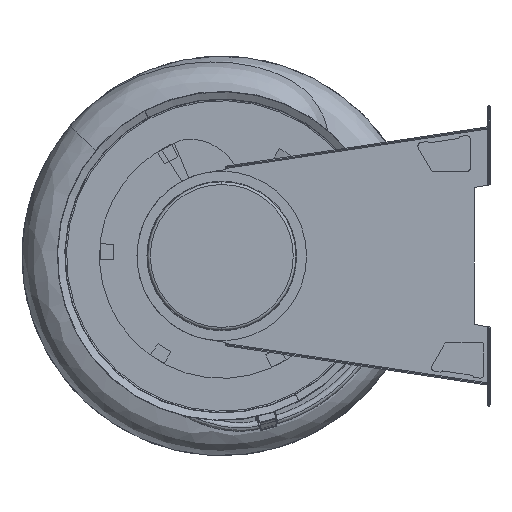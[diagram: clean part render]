
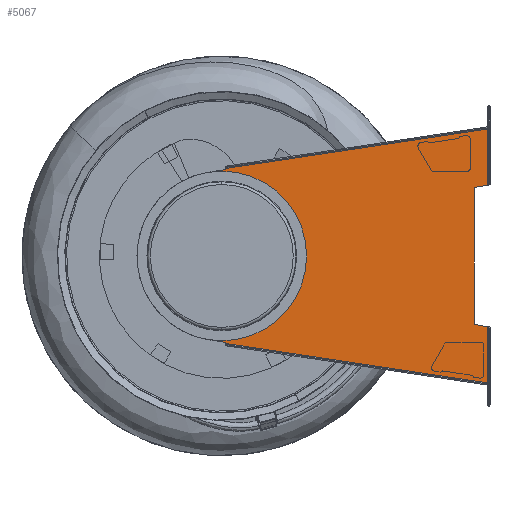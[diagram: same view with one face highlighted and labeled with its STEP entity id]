
A CAD part, left-side view. The second image highlights one B-rep face of the part: STEP entity #5067.
In plain terms, the highlighted planar face has unit normal (-1, 0, 0).
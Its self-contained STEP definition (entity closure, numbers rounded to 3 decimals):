
#3629=DIRECTION('',(0.,0.,1.));
#3630=VECTOR('',#3629,250.);
#3631=CARTESIAN_POINT('',(-924.,-461.142,-125.));
#3632=LINE('',#3631,#3630);
#3645=CARTESIAN_POINT('',(-924.,0.,0.));
#3646=DIRECTION('',(-1.,0.,0.));
#3647=DIRECTION('',(0.,1.,0.));
#3648=AXIS2_PLACEMENT_3D('',#3645,#3646,#3647);
#3650=CARTESIAN_POINT('',(-924.,0.,0.));
#3651=DIRECTION('',(-1.,0.,0.));
#3652=DIRECTION('',(0.,-1.,0.));
#3653=AXIS2_PLACEMENT_3D('',#3650,#3651,#3652);
#3655=DIRECTION('',(0.,-0.989,0.149));
#3656=VECTOR('',#3655,3.105);
#3657=CARTESIAN_POINT('',(-924.,23.07,153.273));
#3658=LINE('',#3657,#3656);
#3659=DIRECTION('',(0.,-0.989,0.149));
#3660=VECTOR('',#3659,6.895);
#3661=CARTESIAN_POINT('',(-924.,20.,153.736));
#3662=LINE('',#3661,#3660);
#3663=DIRECTION('',(0.,-0.989,0.149));
#3664=VECTOR('',#3663,20.342);
#3665=CARTESIAN_POINT('',(-924.,13.182,154.762));
#3666=LINE('',#3665,#3664);
#3667=CARTESIAN_POINT('',(-924.,-21.767,160.022));
#3668=DIRECTION('',(1.,0.,0.));
#3669=DIRECTION('',(0.,0.989,-0.149));
#3670=AXIS2_PLACEMENT_3D('',#3667,#3668,#3669);
#3672=DIRECTION('',(0.,0.989,-0.149));
#3673=VECTOR('',#3672,3.853);
#3674=CARTESIAN_POINT('',(-924.,-486.,231.92));
#3675=LINE('',#3674,#3673);
#3676=DIRECTION('',(0.,0.985,-0.174));
#3677=VECTOR('',#3676,25.242);
#3678=CARTESIAN_POINT('',(-924.,-486.,129.383));
#3679=LINE('',#3678,#3677);
#3680=DIRECTION('',(0.,0.985,0.174));
#3681=VECTOR('',#3680,25.242);
#3682=CARTESIAN_POINT('',(-924.,-486.,-129.383));
#3683=LINE('',#3682,#3681);
#3684=DIRECTION('',(0.,0.989,0.149));
#3685=VECTOR('',#3684,3.853);
#3686=CARTESIAN_POINT('',(-924.,-486.,-231.92));
#3687=LINE('',#3686,#3685);
#3688=CARTESIAN_POINT('',(-924.,-21.767,-160.022));
#3689=DIRECTION('',(1.,0.,0.));
#3690=DIRECTION('',(0.,1.,0.016));
#3691=AXIS2_PLACEMENT_3D('',#3688,#3689,#3690);
#3693=DIRECTION('',(0.,-0.989,-0.149));
#3694=VECTOR('',#3693,20.342);
#3695=CARTESIAN_POINT('',(-924.,13.182,-154.762));
#3696=LINE('',#3695,#3694);
#3697=DIRECTION('',(0.,-0.989,-0.149));
#3698=VECTOR('',#3697,6.895);
#3699=CARTESIAN_POINT('',(-924.,20.,-153.736));
#3700=LINE('',#3699,#3698);
#3701=DIRECTION('',(0.,-0.989,-0.149));
#3702=VECTOR('',#3701,3.105);
#3703=CARTESIAN_POINT('',(-924.,23.07,-153.273));
#3704=LINE('',#3703,#3702);
#3710=CARTESIAN_POINT('',(-924.,0.,0.));
#3711=DIRECTION('',(-1.,0.,0.));
#3712=DIRECTION('',(0.,0.149,0.989));
#3713=AXIS2_PLACEMENT_3D('',#3710,#3711,#3712);
#3747=CARTESIAN_POINT('',(-924.,-6.769,159.787));
#3765=DIRECTION('',(0.,-0.989,0.149));
#3766=VECTOR('',#3765,480.777);
#3767=CARTESIAN_POINT('',(-924.,-6.769,159.787));
#3768=LINE('',#3767,#3766);
#3877=DIRECTION('',(0.,0.,-1.));
#3878=VECTOR('',#3877,102.537);
#3879=CARTESIAN_POINT('',(-924.,-486.,231.92));
#3880=LINE('',#3879,#3878);
#4335=DIRECTION('',(0.,0.,1.));
#4336=VECTOR('',#4335,102.537);
#4337=CARTESIAN_POINT('',(-924.,-486.,-231.92));
#4338=LINE('',#4337,#4336);
#4378=CARTESIAN_POINT('',(-924.,-6.769,-159.787));
#4392=DIRECTION('',(0.,-0.989,-0.149));
#4393=VECTOR('',#4392,480.777);
#4394=CARTESIAN_POINT('',(-924.,-6.769,-159.787));
#4395=LINE('',#4394,#4393);
#4669=CARTESIAN_POINT('',(-924.,-33.,0.));
#4670=CARTESIAN_POINT('',(-924.,33.,0.));
#4671=VERTEX_POINT('',#4669);
#4672=VERTEX_POINT('',#4670);
#4674=CARTESIAN_POINT('',(-924.,23.07,-153.273));
#4676=VERTEX_POINT('',#4674);
#4693=CARTESIAN_POINT('',(-924.,-486.,-231.92));
#4694=CARTESIAN_POINT('',(-924.,-482.19,-231.347));
#4695=VERTEX_POINT('',#4693);
#4696=VERTEX_POINT('',#4694);
#4747=CARTESIAN_POINT('',(-924.,-486.,-129.383));
#4748=VERTEX_POINT('',#4747);
#4750=CARTESIAN_POINT('',(-924.,23.07,153.273));
#4752=VERTEX_POINT('',#4750);
#4769=CARTESIAN_POINT('',(-924.,-486.,231.92));
#4770=CARTESIAN_POINT('',(-924.,-482.19,231.347));
#4771=VERTEX_POINT('',#4769);
#4772=VERTEX_POINT('',#4770);
#4810=CARTESIAN_POINT('',(-924.,-486.,129.383));
#4811=VERTEX_POINT('',#4810);
#4816=CARTESIAN_POINT('',(-924.,-461.142,-125.));
#4817=VERTEX_POINT('',#4816);
#4822=CARTESIAN_POINT('',(-924.,-461.142,125.));
#4823=VERTEX_POINT('',#4822);
#4832=CARTESIAN_POINT('',(-924.,20.,-153.736));
#4833=CARTESIAN_POINT('',(-924.,13.182,-154.762));
#4834=VERTEX_POINT('',#4832);
#4835=VERTEX_POINT('',#4833);
#4841=VERTEX_POINT('',#4378);
#4850=CARTESIAN_POINT('',(-924.,20.,153.736));
#4851=CARTESIAN_POINT('',(-924.,13.182,154.762));
#4852=VERTEX_POINT('',#4850);
#4853=VERTEX_POINT('',#4851);
#4859=VERTEX_POINT('',#3747);
#4878=CARTESIAN_POINT('',(-924.,-6.934,-157.79));
#4879=VERTEX_POINT('',#4878);
#4882=CARTESIAN_POINT('',(-924.,-6.934,157.79));
#4883=VERTEX_POINT('',#4882);
#5019=CARTESIAN_POINT('',(-924.,0.,0.));
#5020=DIRECTION('',(-1.,0.,0.));
#5021=DIRECTION('',(0.,0.,1.));
#5022=AXIS2_PLACEMENT_3D('',#5019,#5020,#5021);
#5023=PLANE('',#5022);
#5025=ORIENTED_EDGE('',*,*,#5024,.F.);
#5027=ORIENTED_EDGE('',*,*,#5026,.T.);
#5029=ORIENTED_EDGE('',*,*,#5028,.T.);
#5031=ORIENTED_EDGE('',*,*,#5030,.T.);
#5033=ORIENTED_EDGE('',*,*,#5032,.T.);
#5035=ORIENTED_EDGE('',*,*,#5034,.T.);
#5037=ORIENTED_EDGE('',*,*,#5036,.F.);
#5039=ORIENTED_EDGE('',*,*,#5038,.T.);
#5041=ORIENTED_EDGE('',*,*,#5040,.T.);
#5042=ORIENTED_EDGE('',*,*,#5002,.F.);
#5044=ORIENTED_EDGE('',*,*,#5043,.F.);
#5046=ORIENTED_EDGE('',*,*,#5045,.F.);
#5048=ORIENTED_EDGE('',*,*,#5047,.T.);
#5050=ORIENTED_EDGE('',*,*,#5049,.F.);
#5052=ORIENTED_EDGE('',*,*,#5051,.T.);
#5054=ORIENTED_EDGE('',*,*,#5053,.F.);
#5056=ORIENTED_EDGE('',*,*,#5055,.F.);
#5058=ORIENTED_EDGE('',*,*,#5057,.F.);
#5059=EDGE_LOOP('',(#5025,#5027,#5029,#5031,#5033,#5035,#5037,#5039,#5041,#5042,
#5044,#5046,#5048,#5050,#5052,#5054,#5056,#5058));
#5060=FACE_OUTER_BOUND('',#5059,.F.);
#5062=ORIENTED_EDGE('',*,*,#5061,.T.);
#5064=ORIENTED_EDGE('',*,*,#5063,.T.);
#5065=EDGE_LOOP('',(#5062,#5064));
#5066=FACE_BOUND('',#5065,.F.);
#3649=CIRCLE('',#3648,33.);
#3654=CIRCLE('',#3653,33.);
#3671=CIRCLE('',#3670,15.);
#3692=CIRCLE('',#3691,15.);
#3714=CIRCLE('',#3713,155.);
#5002=EDGE_CURVE('',#4817,#4823,#3632,.T.);
#5024=EDGE_CURVE('',#4752,#4676,#3714,.T.);
#5026=EDGE_CURVE('',#4752,#4852,#3658,.T.);
#5028=EDGE_CURVE('',#4852,#4853,#3662,.T.);
#5030=EDGE_CURVE('',#4853,#4883,#3666,.T.);
#5032=EDGE_CURVE('',#4883,#4859,#3671,.T.);
#5034=EDGE_CURVE('',#4859,#4772,#3768,.T.);
#5036=EDGE_CURVE('',#4771,#4772,#3675,.T.);
#5038=EDGE_CURVE('',#4771,#4811,#3880,.T.);
#5040=EDGE_CURVE('',#4811,#4823,#3679,.T.);
#5043=EDGE_CURVE('',#4748,#4817,#3683,.T.);
#5045=EDGE_CURVE('',#4695,#4748,#4338,.T.);
#5047=EDGE_CURVE('',#4695,#4696,#3687,.T.);
#5049=EDGE_CURVE('',#4841,#4696,#4395,.T.);
#5051=EDGE_CURVE('',#4841,#4879,#3692,.T.);
#5053=EDGE_CURVE('',#4835,#4879,#3696,.T.);
#5055=EDGE_CURVE('',#4834,#4835,#3700,.T.);
#5057=EDGE_CURVE('',#4676,#4834,#3704,.T.);
#5061=EDGE_CURVE('',#4672,#4671,#3649,.T.);
#5063=EDGE_CURVE('',#4671,#4672,#3654,.T.);
#5067=ADVANCED_FACE('',(#5060,#5066),#5023,.T.);
